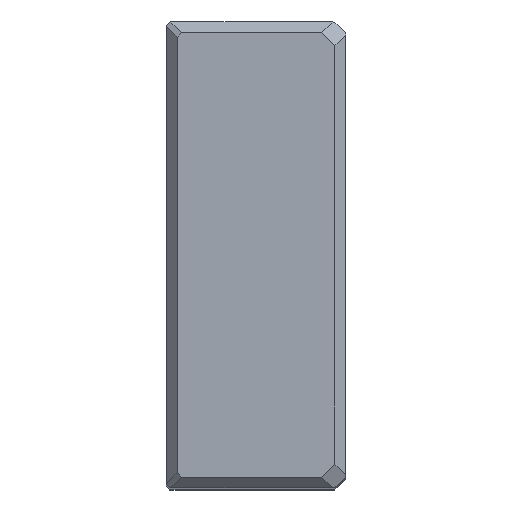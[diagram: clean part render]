
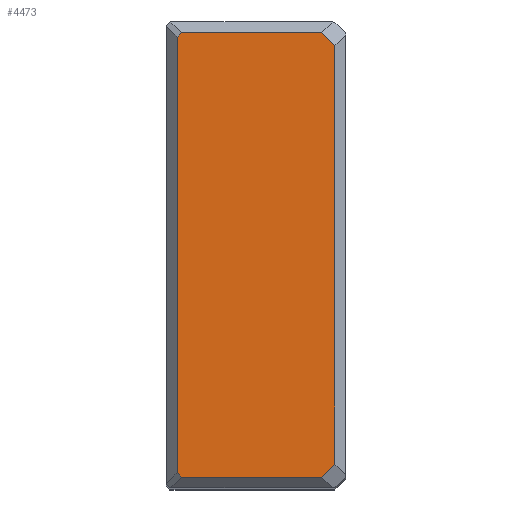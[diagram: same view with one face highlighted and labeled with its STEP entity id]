
A CAD part, top view. The second image highlights one B-rep face of the part: STEP entity #4473.
In plain terms, the highlighted planar face has unit normal (0, 0, 1).
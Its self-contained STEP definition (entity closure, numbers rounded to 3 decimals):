
#95=VERTEX_POINT(' ',#96);
#96=CARTESIAN_POINT('',(-3.,-58.326,0.));
#97=VERTEX_POINT(' ',#98);
#98=CARTESIAN_POINT('',(-6.674,-62.,0.));
#127=VERTEX_POINT(' ',#128);
#128=CARTESIAN_POINT('',(-3.,58.326,0.));
#135=VERTEX_POINT(' ',#136);
#136=CARTESIAN_POINT('',(-6.674,62.,0.));
#161=VERTEX_POINT(' ',#162);
#162=CARTESIAN_POINT('',(-45.775,-62.,0.));
#169=VERTEX_POINT(' ',#170);
#170=CARTESIAN_POINT('',(-47.,-60.775,0.));
#189=VERTEX_POINT(' ',#190);
#190=CARTESIAN_POINT('',(-47.,60.775,0.));
#193=VERTEX_POINT(' ',#194);
#194=CARTESIAN_POINT('',(-45.775,62.,0.));
#880=LINE('',#881,#882);
#881=CARTESIAN_POINT('',(27.663,-27.663,0.));
#882=VECTOR('',#883,1.);
#883=DIRECTION('',(0.707,0.707,0.));
#884=EDGE_CURVE(' ',#95,#97,#880,.F.);
#1010=LINE('',#1011,#1012);
#1011=CARTESIAN_POINT('',(-3.,-65.12,0.));
#1012=VECTOR('',#1013,1.);
#1013=DIRECTION('',(0.,1.,0.));
#1014=EDGE_CURVE(' ',#95,#127,#1010,.T.);
#1035=LINE('',#1036,#1037);
#1036=CARTESIAN_POINT('',(27.663,27.663,0.));
#1037=VECTOR('',#1038,1.);
#1038=DIRECTION('',(-0.707,0.707,0.));
#1039=EDGE_CURVE(' ',#135,#127,#1035,.F.);
#1180=LINE('',#1181,#1182);
#1181=CARTESIAN_POINT('',(-50.12,-62.,0.));
#1182=VECTOR('',#1183,1.);
#1183=DIRECTION('',(1.,0.,0.));
#1184=EDGE_CURVE(' ',#161,#97,#1180,.T.);
#1195=LINE('',#1196,#1197);
#1196=CARTESIAN_POINT('',(-53.888,-53.888,0.));
#1197=VECTOR('',#1198,1.);
#1198=DIRECTION('',(0.707,-0.707,0.));
#1199=EDGE_CURVE(' ',#161,#169,#1195,.F.);
#1292=LINE('',#1293,#1294);
#1293=CARTESIAN_POINT('',(-47.,-65.12,0.));
#1294=VECTOR('',#1295,1.);
#1295=DIRECTION('',(0.,1.,0.));
#1296=EDGE_CURVE(' ',#169,#189,#1292,.T.);
#1297=LINE('',#1298,#1299);
#1298=CARTESIAN_POINT('',(-53.888,53.888,0.));
#1299=VECTOR('',#1300,1.);
#1300=DIRECTION('',(-0.707,-0.707,0.));
#1301=EDGE_CURVE(' ',#189,#193,#1297,.F.);
#1302=LINE('',#1303,#1304);
#1303=CARTESIAN_POINT('',(-50.12,62.,0.));
#1304=VECTOR('',#1305,1.);
#1305=DIRECTION('',(1.,0.,0.));
#1306=EDGE_CURVE(' ',#135,#193,#1302,.F.);
#4458=ORIENTED_EDGE('',*,*,#1301,.F.);
#4459=ORIENTED_EDGE('',*,*,#1296,.F.);
#4460=ORIENTED_EDGE('',*,*,#1199,.F.);
#4461=ORIENTED_EDGE('',*,*,#1184,.T.);
#4462=ORIENTED_EDGE('',*,*,#884,.F.);
#4463=ORIENTED_EDGE('',*,*,#1014,.T.);
#4464=ORIENTED_EDGE('',*,*,#1039,.F.);
#4465=ORIENTED_EDGE('',*,*,#1306,.T.);
#4466=EDGE_LOOP('',(#4458,#4459,#4460,#4461,#4462,#4463,#4464,#4465));
#4467=FACE_OUTER_BOUND('',#4466,.T.);
#4468=PLANE('',#4469);
#4469=AXIS2_PLACEMENT_3D('',#4470,#4471,#4472);
#4470=CARTESIAN_POINT('',(-47.,0.,0.));
#4471=DIRECTION('',(0.,0.,1.));
#4472=DIRECTION('',(1.,0.,0.));
#4473=ADVANCED_FACE('',(#4467),#4468,.T.);
